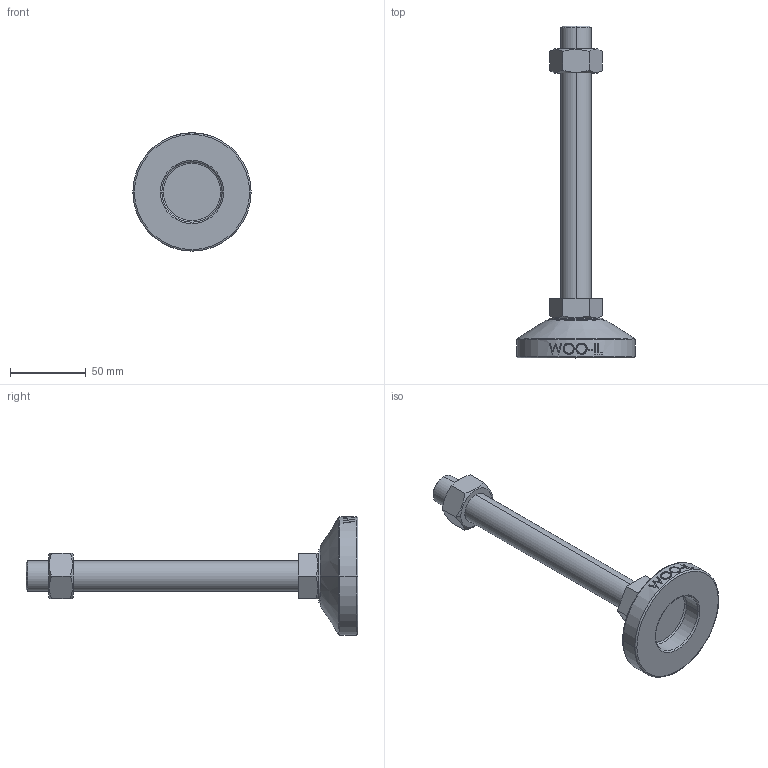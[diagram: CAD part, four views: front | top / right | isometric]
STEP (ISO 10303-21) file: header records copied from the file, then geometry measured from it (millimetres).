
FILE_DESCRIPTION (( 'STEP AP214' ), '1' );
FILE_NAME ('MF78-M20-180.step', '2021-02-03T08:21:40', ( '' ), ( '' ), 'SwSTEP 2.0', 'SolidWorks 2019', '' );
FILE_SCHEMA (( 'AUTOMOTIVE_DESIGN' ));
Length unit declared in the file: millimetre
Products named in the file (2): MF78-M20-180
Bounding box: 78 x 219 x 78 mm (x, y, z)
Volume: 153774.7 mm3; surface area: 32304.2 mm2
Topology: 3 solids, 3 shells, 106 faces, 243 edges, 154 vertices
Faces by surface type: plane 48, cylinder 18, bspline 16, cone 14, torus 10
Entity records: 4532 total; most frequent: CARTESIAN_POINT 2189, ORIENTED_EDGE 486, DIRECTION 439, EDGE_CURVE 243, AXIS2_PLACEMENT_3D 170, VERTEX_POINT 154, EDGE_LOOP 119, FACE_OUTER_BOUND 106
